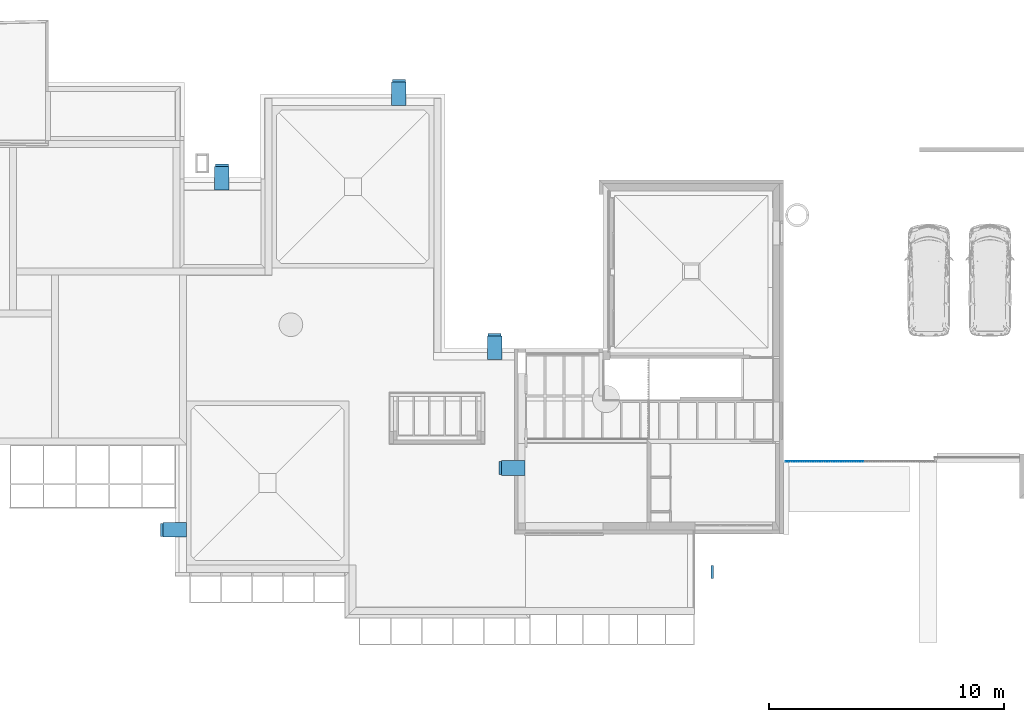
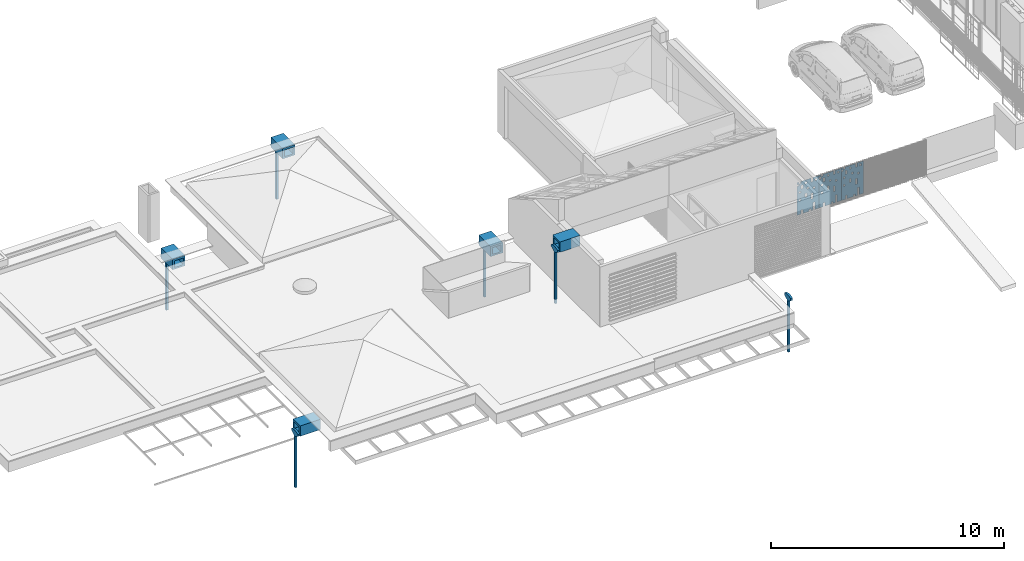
# One storey, part 5 of 51: 14 beams.
"""IFC2X3 building model written with IfcOpenShell, lengths in metres."""

from ifc_helpers import new_model, entity, si_unit, converted_unit, derived_unit, direction, frame, frame_2d, origin, place, context, subcontext, project, spatial, polyline, circle_curve, parameter, trimmed, segment, composite_curve, outline, extrude, material, type_object, element, save


model = new_model("IFC2X3")

# Units and contexts
model_context = context("Model", 3, precision=1e-05, world=origin(), true_north=direction((6.123031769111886e-17, 1.0)))
body_context = subcontext(model_context, "Body", "Model", "MODEL_VIEW")
ifc_project = project(units=[si_unit("LENGTHUNIT", "METRE"), si_unit("AREAUNIT", "SQUARE_METRE"), si_unit("VOLUMEUNIT", "CUBIC_METRE"), converted_unit("PLANEANGLEUNIT", "DEGREE", entity("IfcRatioMeasure", 0.017453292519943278), si_unit("PLANEANGLEUNIT", "RADIAN"), dimensions=[0, 0, 0, 0, 0, 0, 0]), si_unit("MASSUNIT", "GRAM", prefix="KILO"), derived_unit("MASSDENSITYUNIT", [(si_unit("MASSUNIT", "GRAM", prefix="KILO"), 1), (si_unit("LENGTHUNIT", "METRE"), -3)]), derived_unit("MOMENTOFINERTIAUNIT", [(si_unit("LENGTHUNIT", "METRE"), 4)]), si_unit("TIMEUNIT", "SECOND"), si_unit("FREQUENCYUNIT", "HERTZ"), si_unit("THERMODYNAMICTEMPERATUREUNIT", "DEGREE_CELSIUS"), derived_unit("THERMALTRANSMITTANCEUNIT", [(si_unit("MASSUNIT", "GRAM", prefix="KILO"), 1), (si_unit("THERMODYNAMICTEMPERATUREUNIT", "KELVIN"), -1), (si_unit("TIMEUNIT", "SECOND"), -3)]), derived_unit("THERMALCONDUCTANCEUNIT", [(si_unit("MASSUNIT", "GRAM", prefix="KILO"), 1), (si_unit("LENGTHUNIT", "METRE"), 1), (si_unit("THERMODYNAMICTEMPERATUREUNIT", "KELVIN"), -1), (si_unit("TIMEUNIT", "SECOND"), -3)]), derived_unit("VOLUMETRICFLOWRATEUNIT", [(si_unit("LENGTHUNIT", "METRE"), 3), (si_unit("TIMEUNIT", "SECOND"), -1)]), derived_unit("MASSFLOWRATEUNIT", [(si_unit("MASSUNIT", "GRAM", prefix="KILO"), 1), (si_unit("TIMEUNIT", "SECOND"), -1)]), derived_unit("ROTATIONALFREQUENCYUNIT", [(si_unit("TIMEUNIT", "SECOND"), -1)]), si_unit("ELECTRICCURRENTUNIT", "AMPERE"), si_unit("ELECTRICVOLTAGEUNIT", "VOLT"), si_unit("POWERUNIT", "WATT"), si_unit("FORCEUNIT", "NEWTON", prefix="KILO"), si_unit("ILLUMINANCEUNIT", "LUX"), si_unit("LUMINOUSFLUXUNIT", "LUMEN"), si_unit("LUMINOUSINTENSITYUNIT", "CANDELA"), derived_unit("USERDEFINED", [(si_unit("MASSUNIT", "GRAM", prefix="KILO"), -1), (si_unit("LENGTHUNIT", "METRE"), -2), (si_unit("TIMEUNIT", "SECOND"), 3), (si_unit("LUMINOUSFLUXUNIT", "LUMEN"), 1)]), derived_unit("USERDEFINED", [(si_unit("MASSUNIT", "GRAM", prefix="KILO"), 1), (si_unit("LENGTHUNIT", "METRE"), 3), (si_unit("TIMEUNIT", "SECOND"), -3), (si_unit("ELECTRICCURRENTUNIT", "AMPERE"), -2)]), derived_unit("USERDEFINED", [(si_unit("LENGTHUNIT", "METRE"), 2), (si_unit("TIMEUNIT", "SECOND"), -2)]), derived_unit("SOUNDPOWERUNIT", [(si_unit("MASSUNIT", "GRAM", prefix="KILO"), 1), (si_unit("LENGTHUNIT", "METRE"), 2), (si_unit("TIMEUNIT", "SECOND"), -3)]), derived_unit("SOUNDPRESSUREUNIT", [(si_unit("MASSUNIT", "GRAM", prefix="KILO"), 1), (si_unit("LENGTHUNIT", "METRE"), -1), (si_unit("TIMEUNIT", "SECOND"), -2)]), derived_unit("LINEARVELOCITYUNIT", [(si_unit("LENGTHUNIT", "METRE"), 1), (si_unit("TIMEUNIT", "SECOND"), -1)]), si_unit("PRESSUREUNIT", "PASCAL"), derived_unit("USERDEFINED", [(si_unit("LENGTHUNIT", "METRE"), -2), (si_unit("MASSUNIT", "GRAM", prefix="KILO"), 1), (si_unit("TIMEUNIT", "SECOND"), -2)]), derived_unit("LINEARFORCEUNIT", [(si_unit("MASSUNIT", "GRAM", prefix="KILO"), 1), (si_unit("LENGTHUNIT", "METRE"), 1), (si_unit("TIMEUNIT", "SECOND"), -2), (si_unit("LENGTHUNIT", "METRE"), -1)]), derived_unit("PLANARFORCEUNIT", [(si_unit("MASSUNIT", "GRAM", prefix="KILO"), 1), (si_unit("LENGTHUNIT", "METRE"), 1), (si_unit("TIMEUNIT", "SECOND"), -2), (si_unit("LENGTHUNIT", "METRE"), -2)]), derived_unit("SPECIFICHEATCAPACITYUNIT", [(si_unit("LENGTHUNIT", "METRE"), 2), (si_unit("TIMEUNIT", "SECOND"), -2), (si_unit("THERMODYNAMICTEMPERATUREUNIT", "KELVIN"), -1)]), derived_unit("VAPORPERMEABILITYUNIT", [(si_unit("TIMEUNIT", "SECOND"), 1), (si_unit("LENGTHUNIT", "METRE"), -1)]), derived_unit("DYNAMICVISCOSITYUNIT", [(si_unit("MASSUNIT", "GRAM", prefix="KILO"), 1), (si_unit("LENGTHUNIT", "METRE"), -1), (si_unit("TIMEUNIT", "SECOND"), -1)]), derived_unit("THERMALEXPANSIONCOEFFICIENTUNIT", [(si_unit("THERMODYNAMICTEMPERATUREUNIT", "KELVIN"), -1)])], contexts=[model_context])

# Site, building, storey
site_placement = place(None, origin())
site = spatial("IfcSite", under=ifc_project, at=site_placement, Name="Default", CompositionType="ELEMENT")
building_placement = place(site_placement, origin())
building = spatial("IfcBuilding", under=site, at=building_placement, CompositionType="ELEMENT")
storey_placement = place(building_placement, frame((0.0, 0.0, 3.06)))
storey = spatial("IfcBuildingStorey", under=building, at=storey_placement, Name="ÉTAGE", CompositionType="ELEMENT", Elevation=3.06)

# Beams
ifc_material_1 = material(Name="Peinture - Jade pâle")
beam_type_1 = type_object("IfcBeamType", Name="Poutre-010 250417:Poutre-010 250417", PredefinedType="NOTDEFINED")
beam_1_placement = place(storey_placement, origin())
element("IfcBeam", 1, at=beam_1_placement, inside=storey, type_object=beam_type_1, material=ifc_material_1, Name="Poutre-004", ObjectType="Poutre-010 250417:Poutre-010 250417", context=body_context, shape_type="SweptSolid", body=[
    extrude(outline(composite_curve([segment(polyline([(0.7181249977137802, -0.27750000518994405), (0.813958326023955, -0.2775000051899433)]), True, "CONTINUOUS"), segment(trimmed(circle_curve(frame_2d((0.3087797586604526, -0.0024999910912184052), x_axis=(0.8782986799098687, 0.4781123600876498)), 0.575178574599), [parameter(302.87561741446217)], [parameter(359.99999999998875)], True, "PARAMETER"), True, "CONTINUOUS"), segment(polyline([(0.8139583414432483, 0.2724999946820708), (0.7181250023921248, 0.2724999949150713)]), True, "CONTINUOUS"), segment(polyline([(0.7181250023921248, 0.2724999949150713), (0.5839583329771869, 0.05249999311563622)]), True, "CONTINUOUS"), segment(polyline([(0.5839583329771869, 0.05249999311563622), (-2.1160416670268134, 0.052500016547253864)]), True, "CONTINUOUS"), segment(polyline([(-2.1160416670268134, 0.052500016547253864), (-2.11604166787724, -0.047499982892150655)]), True, "CONTINUOUS"), segment(polyline([(-2.11604166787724, -0.047499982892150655), (0.583958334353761, -0.047500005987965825)]), True, "CONTINUOUS"), segment(polyline([(0.583958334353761, -0.047500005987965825), (0.7181249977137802, -0.27750000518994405)]), True, "CONTINUOUS")], self_intersect=False)), frame((116.07325227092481, 16.0072094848, -0.9739583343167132), z_axis=(0.0, 1.0, 0.0), x_axis=(8.504262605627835e-09, 0.0, 1.0)), (0.0, 0.0, 1.0), 0.10000000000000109),
])
beam_2_placement = place(storey_placement, origin())
element("IfcBeam", 2, at=beam_2_placement, inside=storey, type_object=beam_type_1, material=ifc_material_1, Name="Poutre-012", ObjectType="Poutre-010 250417:Poutre-010 250417", context=body_context, shape_type="SweptSolid", body=[
    extrude(outline(composite_curve([segment(polyline([(0.71812499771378, -0.27750000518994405), (0.8139583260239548, -0.2775000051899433)]), True, "CONTINUOUS"), segment(trimmed(circle_curve(frame_2d((0.3087797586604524, -0.0024999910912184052), x_axis=(0.8782986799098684, 0.4781123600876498)), 0.575178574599), [parameter(302.87561741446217)], [parameter(359.99999999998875)], True, "PARAMETER"), True, "CONTINUOUS"), segment(polyline([(0.8139583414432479, 0.2724999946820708), (0.7181250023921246, 0.2724999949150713)]), True, "CONTINUOUS"), segment(polyline([(0.7181250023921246, 0.2724999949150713), (0.5839583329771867, 0.05249999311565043)]), True, "CONTINUOUS"), segment(polyline([(0.5839583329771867, 0.05249999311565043), (-2.116041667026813, 0.052500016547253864)]), True, "CONTINUOUS"), segment(polyline([(-2.116041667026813, 0.052500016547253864), (-2.1160416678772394, -0.047499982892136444)]), True, "CONTINUOUS"), segment(polyline([(-2.1160416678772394, -0.047499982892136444), (0.5839583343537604, -0.047500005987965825)]), True, "CONTINUOUS"), segment(polyline([(0.5839583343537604, -0.047500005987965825), (0.71812499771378, -0.27750000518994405)]), True, "CONTINUOUS")], self_intersect=False)), frame((104.47325226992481, 23.2272094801, -1.973958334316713), z_axis=(0.0, 1.0, 0.0), x_axis=(8.504262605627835e-09, 0.0, 1.0)), (0.0, 0.0, 1.0), 0.09999999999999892),
])
beam_3_placement = place(storey_placement, origin())
element("IfcBeam", 3, at=beam_3_placement, inside=storey, type_object=beam_type_1, material=ifc_material_1, Name="Poutre-006", ObjectType="Poutre-010 250417:Poutre-010 250417", context=body_context, shape_type="SweptSolid", body=[
    extrude(outline(composite_curve([segment(polyline([(0.7181249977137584, -0.2775000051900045), (0.813958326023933, -0.27750000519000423)]), True, "CONTINUOUS"), segment(trimmed(circle_curve(frame_2d((0.3087797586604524, -0.002499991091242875), x_axis=(0.8782986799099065, 0.4781123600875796)), 0.575178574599), [parameter(302.87561741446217)], [parameter(359.99999999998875)], True, "PARAMETER"), True, "CONTINUOUS"), segment(polyline([(0.8139583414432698, 0.27249999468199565), (0.7181250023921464, 0.27249999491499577)]), True, "CONTINUOUS"), segment(polyline([(0.7181250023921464, 0.27249999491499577), (0.5839583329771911, 0.05249999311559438)]), True, "CONTINUOUS"), segment(polyline([(0.5839583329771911, 0.05249999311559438), (-2.1160416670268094, 0.05250001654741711)]), True, "CONTINUOUS"), segment(polyline([(-2.1160416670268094, 0.05250001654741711), (-2.116041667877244, -0.04749998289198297)]), True, "CONTINUOUS"), segment(polyline([(-2.116041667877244, -0.04749998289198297), (0.5839583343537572, -0.047500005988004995)]), True, "CONTINUOUS"), segment(polyline([(0.5839583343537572, -0.047500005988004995), (0.7181249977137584, -0.2775000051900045)]), True, "CONTINUOUS")], self_intersect=False)), frame((125.28575228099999, 5.964709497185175, -0.9739583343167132), z_axis=(1.0, 0.0, 0.0), x_axis=(0.0, -8.504341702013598e-09, 1.0)), (0.0, 0.0, 1.0), 0.0999999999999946),
])
beam_4_placement = place(storey_placement, origin())
element("IfcBeam", 4, at=beam_4_placement, inside=storey, type_object=beam_type_1, material=ifc_material_1, Name="Poutre-008", ObjectType="Poutre-010 250417:Poutre-010 250417", context=body_context, shape_type="SweptSolid", body=[
    extrude(outline(composite_curve([segment(polyline([(0.7181249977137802, -0.27750000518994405), (0.813958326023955, -0.2775000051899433)]), True, "CONTINUOUS"), segment(trimmed(circle_curve(frame_2d((0.3087797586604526, -0.0024999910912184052), x_axis=(0.8782986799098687, 0.4781123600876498)), 0.575178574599), [parameter(302.87561741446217)], [parameter(359.99999999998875)], True, "PARAMETER"), True, "CONTINUOUS"), segment(polyline([(0.8139583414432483, 0.2724999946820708), (0.7181250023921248, 0.2724999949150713)]), True, "CONTINUOUS"), segment(polyline([(0.7181250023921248, 0.2724999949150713), (0.5839583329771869, 0.05249999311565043)]), True, "CONTINUOUS"), segment(polyline([(0.5839583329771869, 0.05249999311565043), (-2.1160416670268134, 0.052500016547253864)]), True, "CONTINUOUS"), segment(polyline([(-2.1160416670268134, 0.052500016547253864), (-2.11604166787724, -0.047499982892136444)]), True, "CONTINUOUS"), segment(polyline([(-2.11604166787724, -0.047499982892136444), (0.583958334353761, -0.047500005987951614)]), True, "CONTINUOUS"), segment(polyline([(0.583958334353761, -0.047500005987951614), (0.7181249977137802, -0.27750000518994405)]), True, "CONTINUOUS")], self_intersect=False)), frame((112.00325226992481, 26.817209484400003, -0.9739583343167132), z_axis=(0.0, 1.0, 0.0), x_axis=(8.504262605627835e-09, 0.0, 1.0)), (0.0, 0.0, 1.0), 0.09999999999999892),
])
beam_5_placement = place(storey_placement, origin())
element("IfcBeam", 5, at=beam_5_placement, inside=storey, type_object=beam_type_1, material=ifc_material_1, Name="Poutre-010", ObjectType="Poutre-010 250417:Poutre-010 250417", context=body_context, shape_type="SweptSolid", body=[
    extrude(outline(composite_curve([segment(polyline([(-0.6015410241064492, -0.4804770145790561), (-0.6498286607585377, -0.5632558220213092)]), True, "CONTINUOUS"), segment(trimmed(circle_curve(frame_2d((-0.1577446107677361, -0.2654577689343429), x_axis=(-0.02956587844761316, -0.9995628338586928)), 0.575178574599), [parameter(302.87561741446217)], [parameter(359.99999999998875)], True, "PARAMETER"), True, "CONTINUOUS"), segment(polyline([(-0.17475027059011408, -0.84038489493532), (-0.1264626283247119, -0.7576060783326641)]), True, "CONTINUOUS"), segment(polyline([(-0.1264626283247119, -0.7576060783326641), (-0.24889129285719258, -0.5308641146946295)]), True, "CONTINUOUS"), segment(polyline([(-0.24889129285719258, -0.5308641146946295), (1.1115604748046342, 1.8013389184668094)]), True, "CONTINUOUS"), segment(polyline([(1.1115604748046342, 1.8013389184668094), (1.0251825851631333, 1.8517260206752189)]), True, "CONTINUOUS"), segment(polyline([(1.0251825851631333, 1.8517260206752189), (-0.3352691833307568, -0.48047701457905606)]), True, "CONTINUOUS"), segment(polyline([(-0.3352691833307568, -0.48047701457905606), (-0.6015410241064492, -0.4804770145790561)]), True, "CONTINUOUS")], self_intersect=False)), frame((101.86075227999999, 7.759709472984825, -0.9739583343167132), z_axis=(-1.0, 0.0, 0.0), x_axis=(0.0, 0.863778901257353, -0.5038710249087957)), (0.0, 0.0, -1.0), 0.09999999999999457),
])
beam_type_2 = type_object("IfcBeamType", Name="Poutre-002 805953:Poutre-002 805953", PredefinedType="NOTDEFINED")
beam_6_placement = place(storey_placement, origin())
element("IfcBeam", 6, at=beam_6_placement, inside=storey, type_object=beam_type_2, material=ifc_material_1, Name="Poutre-002", ObjectType="Poutre-002 805953:Poutre-002 805953", context=body_context, shape_type="SweptSolid", body=[
    extrude(outline(composite_curve([segment(polyline([(-0.8139583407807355, -0.27249999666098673), (-0.7181250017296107, -0.27249999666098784)]), True, "CONTINUOUS"), segment(polyline([(-0.7181250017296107, -0.27249999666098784), (-0.5839583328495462, -0.052499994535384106)]), True, "CONTINUOUS"), segment(polyline([(-0.5839583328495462, -0.052499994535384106), (2.1160416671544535, -0.052500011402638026)]), True, "CONTINUOUS"), segment(polyline([(2.1160416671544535, -0.052500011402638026), (2.1160416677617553, 0.047499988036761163)]), True, "CONTINUOUS"), segment(polyline([(2.1160416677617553, 0.047499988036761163), (-0.5839583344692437, 0.04750000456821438)]), True, "CONTINUOUS"), segment(polyline([(-0.5839583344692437, 0.04750000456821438), (-0.7181249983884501, 0.27750000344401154)]), True, "CONTINUOUS"), segment(polyline([(-0.7181249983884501, 0.27750000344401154), (-0.8139583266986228, 0.27750000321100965)]), True, "CONTINUOUS"), segment(trimmed(circle_curve(frame_2d((-0.30877975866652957, 0.0024999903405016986), x_axis=(-0.8782986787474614, -0.47811236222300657)), 0.575178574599), [parameter(302.87561741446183)], [parameter(359.99999999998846)], True, "PARAMETER"), True, "CONTINUOUS")], self_intersect=False)), frame((116.27075228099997, 10.389709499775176, 2.036041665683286), z_axis=(1.0, 0.0, 0.0), x_axis=(0.0, 6.07301981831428e-09, -1.0)), (0.0, 0.0, 1.0), 0.0999999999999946),
])
ifc_material_2 = material(Name="Enduit - Beige nature")
beam_type_3 = type_object("IfcBeamType", Name="Poutre-002 805777:Poutre-002 805777", PredefinedType="NOTDEFINED")
beam_7_placement = place(storey_placement, origin())
element("IfcBeam", 7, at=beam_7_placement, inside=storey, type_object=beam_type_3, material=ifc_material_2, Name="Poutre-002", ObjectType="Poutre-002 805777:Poutre-002 805777", context=body_context, shape_type="SweptSolid", body=[
    extrude(outline(polyline([(-0.27000000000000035, -0.30999999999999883), (0.26999999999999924, -0.30999999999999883), (0.26999999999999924, 0.310000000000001), (-0.27000000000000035, 0.310000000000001), (-0.27000000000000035, -0.30999999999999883)]), holes=[polyline([(0.16999999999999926, 0.21000000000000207), (0.18999999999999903, 0.0), (0.16999999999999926, -0.2099999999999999), (-0.17000000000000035, -0.2199999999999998), (-0.17000000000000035, 0.22000000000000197), (0.16999999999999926, 0.21000000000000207)])]), frame((116.37075228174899, 10.392209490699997, 3.0199999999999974), z_axis=(1.0, 0.0, 0.0), x_axis=(0.0, 0.0, -1.0)), (0.0, 0.0, 1.0), 0.9999999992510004),
])
beam_type_4 = type_object("IfcBeamType", Name="Poutre-004 250637:Poutre-004 250637", PredefinedType="NOTDEFINED")
beam_8_placement = place(storey_placement, origin())
element("IfcBeam", 8, at=beam_8_placement, inside=storey, type_object=beam_type_4, material=ifc_material_2, Name="Poutre-011", ObjectType="Poutre-004 250637:Poutre-004 250637", context=body_context, shape_type="SweptSolid", body=[
    extrude(outline(polyline([(-0.2700000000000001, -0.30999999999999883), (0.2700000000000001, -0.30999999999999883), (0.2700000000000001, 0.30999999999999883), (-0.2700000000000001, 0.30999999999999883), (-0.2700000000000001, -0.30999999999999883)]), holes=[polyline([(0.17000000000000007, 0.22000000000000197), (0.17000000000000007, -0.22000000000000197), (-0.17000000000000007, -0.21000000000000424), (-0.1900000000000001, 0.0), (-0.17000000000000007, 0.21000000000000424), (0.17000000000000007, 0.22000000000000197)])]), frame((104.470752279, 22.227209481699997, -0.9899999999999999), z_axis=(0.0, 1.0, 0.0), x_axis=(0.0, 0.0, 1.0)), (0.0, 0.0, 1.0), 0.9999999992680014),
])
beam_9_placement = place(storey_placement, origin())
element("IfcBeam", 9, at=beam_9_placement, inside=storey, type_object=beam_type_4, material=ifc_material_2, Name="Poutre-009", ObjectType="Poutre-004 250637:Poutre-004 250637", context=body_context, shape_type="SweptSolid", body=[
    extrude(outline(polyline([(-0.310000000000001, -0.27000000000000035), (0.30999999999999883, -0.27000000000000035), (0.30999999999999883, 0.2699999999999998), (-0.310000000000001, 0.2699999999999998), (-0.310000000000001, -0.27000000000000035)]), holes=[polyline([(0.21999999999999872, 0.1699999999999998), (0.20999999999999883, -0.17000000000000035), (0.0, -0.1900000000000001), (-0.210000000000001, -0.17000000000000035), (-0.2200000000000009, 0.1699999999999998), (0.21999999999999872, 0.1699999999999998)])]), frame((101.960752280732, 7.757209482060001, 0.010000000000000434), z_axis=(1.0, 0.0, 0.0), x_axis=(0.0, 1.0, 0.0)), (0.0, 0.0, 1.0), 0.9999999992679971),
])
beam_10_placement = place(storey_placement, origin())
element("IfcBeam", 10, at=beam_10_placement, inside=storey, type_object=beam_type_4, material=ifc_material_2, Name="Poutre-007", ObjectType="Poutre-004 250637:Poutre-004 250637", context=body_context, shape_type="SweptSolid", body=[
    extrude(outline(polyline([(-0.27000000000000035, -0.30999999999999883), (0.2699999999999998, -0.30999999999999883), (0.2699999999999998, 0.30999999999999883), (-0.27000000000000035, 0.30999999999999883), (-0.27000000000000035, -0.30999999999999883)]), holes=[polyline([(0.1699999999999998, 0.22000000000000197), (0.1699999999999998, -0.22000000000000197), (-0.17000000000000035, -0.21000000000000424), (-0.1900000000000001, 0.0), (-0.17000000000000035, 0.21000000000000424), (0.1699999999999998, 0.22000000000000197)])]), frame((112.000752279, 25.8172094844, 0.010000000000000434), z_axis=(0.0, 1.0, 0.0), x_axis=(0.0, 0.0, 1.0)), (0.0, 0.0, 1.0), 0.9999999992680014),
])
beam_11_placement = place(storey_placement, origin())
element("IfcBeam", 11, at=beam_11_placement, inside=storey, type_object=beam_type_4, material=ifc_material_2, Name="Poutre-004", ObjectType="Poutre-004 250637:Poutre-004 250637", context=body_context, shape_type="SweptSolid", body=[
    extrude(outline(polyline([(-0.27000000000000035, -0.30999999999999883), (0.2699999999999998, -0.30999999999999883), (0.2699999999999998, 0.30999999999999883), (-0.27000000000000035, 0.30999999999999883), (-0.27000000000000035, -0.30999999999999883)]), holes=[polyline([(0.1699999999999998, 0.22000000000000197), (0.1699999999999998, -0.22000000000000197), (-0.17000000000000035, -0.21000000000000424), (-0.1900000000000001, 0.0), (-0.17000000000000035, 0.21000000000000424), (0.1699999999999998, 0.22000000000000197)])]), frame((116.07075228, 15.0072094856, 0.010000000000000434), z_axis=(0.0, 1.0, 0.0), x_axis=(0.0, 0.0, 1.0)), (0.0, 0.0, 1.0), 0.9999999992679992),
])
ifc_material_3 = material(Name="Peinture - Gris foncé")
beam_type_5 = type_object("IfcBeamType", Name="Poutre-017 448176:Poutre-017 448176", PredefinedType="NOTDEFINED")
beam_12_placement = place(storey_placement, origin())
element("IfcBeam", 12, at=beam_12_placement, inside=storey, type_object=beam_type_5, material=ifc_material_3, Name="Poutre-017", ObjectType="Poutre-017 448176:Poutre-017 448176", context=body_context, shape_type="SweptSolid", body=[
    extrude(outline(polyline([(-0.5333333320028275, -0.9587500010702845), (-0.42833333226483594, -0.9587500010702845), (-0.42833333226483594, -0.8637500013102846), (-0.3383333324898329, -0.8637500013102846), (-0.3383333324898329, -0.9587500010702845), (0.1716666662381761, -0.9587500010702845), (0.1716666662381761, -0.7637500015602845), (0.26166666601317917, -0.7637500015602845), (0.26166666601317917, -0.9587500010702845), (0.5666666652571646, -0.9587500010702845), (0.5666666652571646, 0.7412499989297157), (0.3616666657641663, 0.7412499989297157), (0.3616666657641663, 0.3462499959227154), (0.2716666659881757, 0.3462499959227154), (0.2716666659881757, 0.7412499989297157), (0.1616666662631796, 0.7412499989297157), (0.1616666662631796, 0.6462499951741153), (0.07166666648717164, 0.6462499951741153), (0.07166666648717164, 0.7412499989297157), (-0.23833333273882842, 0.7412499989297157), (-0.23833333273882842, 0.5462500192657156), (-0.32833333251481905, 0.5462500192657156), (-0.32833333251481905, 0.7412499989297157), (-0.5333333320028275, 0.7412499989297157), (-0.5333333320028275, -0.9587500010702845)]), holes=[polyline([(-0.42833333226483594, 0.036249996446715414), (-0.3383333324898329, 0.036249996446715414), (-0.3383333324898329, -0.0537500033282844), (-0.42833333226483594, -0.0537500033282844), (-0.42833333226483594, 0.036249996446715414)]), polyline([(-0.42833333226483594, -0.4537500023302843), (-0.42833333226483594, -0.36375000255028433), (-0.3383333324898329, -0.36375000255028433), (-0.3383333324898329, -0.4537500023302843), (-0.42833333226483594, -0.4537500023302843)]), polyline([(-0.0383333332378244, -0.2537500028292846), (-0.12833333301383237, -0.2537500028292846), (-0.12833333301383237, -0.06375000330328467), (-0.0383333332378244, -0.06375000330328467), (-0.0383333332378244, -0.2537500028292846)]), polyline([(0.1716666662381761, -0.15375000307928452), (0.1716666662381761, 0.13624999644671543), (0.2616666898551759, 0.13624999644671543), (0.2616666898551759, -0.15375000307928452), (0.1716666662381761, -0.15375000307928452)]), polyline([(0.2716666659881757, -0.4537500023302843), (0.2716666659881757, -0.36375000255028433), (0.3616666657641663, -0.36375000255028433), (0.3616666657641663, -0.4537500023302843), (0.2716666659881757, -0.4537500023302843)]), polyline([(-0.5283333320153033, -0.7637500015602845), (-0.43833333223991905, -0.7637500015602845), (-0.43833333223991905, -0.8537500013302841), (-0.5283333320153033, -0.8537500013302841), (-0.5283333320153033, -0.7637500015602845)]), polyline([(-0.23833333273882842, -0.7537500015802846), (-0.32833333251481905, -0.7537500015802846), (-0.32833333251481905, -0.5637500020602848), (-0.23833333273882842, -0.5637500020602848), (-0.23833333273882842, -0.7537500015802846)]), polyline([(-0.12833333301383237, -0.7637500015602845), (-0.0383333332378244, -0.7637500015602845), (-0.0383333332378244, -0.8537500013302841), (-0.12833333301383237, -0.8537500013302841), (-0.12833333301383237, -0.7637500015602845)]), polyline([(-0.02833333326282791, -0.5537500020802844), (-0.02833333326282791, -0.4637500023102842), (0.06166666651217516, -0.4637500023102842), (0.06166666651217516, -0.5537500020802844), (-0.02833333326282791, -0.5537500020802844)]), polyline([(0.46166666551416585, -0.8537500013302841), (0.3716666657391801, -0.8537500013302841), (0.3716666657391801, -0.7637500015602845), (0.46166666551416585, -0.7637500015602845), (0.46166666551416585, -0.8537500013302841)])]), frame((131.19908561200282, 10.667209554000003, 0.8412499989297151), z_axis=(0.0, 1.0, 0.0), x_axis=(1.0, 0.0, 0.0)), (0.0, 0.0, 1.0), 0.009999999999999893),
])
beam_13_placement = place(storey_placement, origin())
element("IfcBeam", 13, at=beam_13_placement, inside=storey, type_object=beam_type_5, material=ifc_material_3, Name="Poutre-017", ObjectType="Poutre-017 448176:Poutre-017 448176", context=body_context, shape_type="SweptSolid", body=[
    extrude(outline(polyline([(-0.5333333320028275, -0.9587500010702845), (-0.42833333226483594, -0.9587500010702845), (-0.42833333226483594, -0.8637500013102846), (-0.3383333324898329, -0.8637500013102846), (-0.3383333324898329, -0.9587500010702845), (0.1716666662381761, -0.9587500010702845), (0.1716666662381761, -0.7637500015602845), (0.26166666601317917, -0.7637500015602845), (0.26166666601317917, -0.9587500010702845), (0.5666666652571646, -0.9587500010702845), (0.5666666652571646, 0.7412499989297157), (0.3616666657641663, 0.7412499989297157), (0.3616666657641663, 0.3462499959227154), (0.2716666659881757, 0.3462499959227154), (0.2716666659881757, 0.7412499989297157), (0.1616666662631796, 0.7412499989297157), (0.1616666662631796, 0.6462499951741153), (0.07166666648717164, 0.6462499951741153), (0.07166666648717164, 0.7412499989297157), (-0.23833333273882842, 0.7412499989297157), (-0.23833333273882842, 0.5462500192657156), (-0.32833333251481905, 0.5462500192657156), (-0.32833333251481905, 0.7412499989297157), (-0.5333333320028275, 0.7412499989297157), (-0.5333333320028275, -0.9587500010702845)]), holes=[polyline([(-0.42833333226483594, 0.036249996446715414), (-0.3383333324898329, 0.036249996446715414), (-0.3383333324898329, -0.0537500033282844), (-0.42833333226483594, -0.0537500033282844), (-0.42833333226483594, 0.036249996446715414)]), polyline([(-0.42833333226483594, -0.4537500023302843), (-0.42833333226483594, -0.36375000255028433), (-0.3383333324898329, -0.36375000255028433), (-0.3383333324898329, -0.4537500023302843), (-0.42833333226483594, -0.4537500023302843)]), polyline([(-0.0383333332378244, -0.2537500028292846), (-0.12833333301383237, -0.2537500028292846), (-0.12833333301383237, -0.06375000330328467), (-0.0383333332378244, -0.06375000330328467), (-0.0383333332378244, -0.2537500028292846)]), polyline([(0.1716666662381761, -0.15375000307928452), (0.1716666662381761, 0.13624999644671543), (0.2616666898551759, 0.13624999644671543), (0.2616666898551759, -0.15375000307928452), (0.1716666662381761, -0.15375000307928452)]), polyline([(0.2716666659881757, -0.4537500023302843), (0.2716666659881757, -0.36375000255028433), (0.3616666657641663, -0.36375000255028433), (0.3616666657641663, -0.4537500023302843), (0.2716666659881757, -0.4537500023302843)]), polyline([(-0.5283333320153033, -0.7637500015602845), (-0.43833333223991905, -0.7637500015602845), (-0.43833333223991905, -0.8537500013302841), (-0.5283333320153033, -0.8537500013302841), (-0.5283333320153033, -0.7637500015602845)]), polyline([(-0.23833333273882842, -0.7537500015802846), (-0.32833333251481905, -0.7537500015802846), (-0.32833333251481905, -0.5637500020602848), (-0.23833333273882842, -0.5637500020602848), (-0.23833333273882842, -0.7537500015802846)]), polyline([(-0.12833333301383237, -0.7637500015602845), (-0.0383333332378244, -0.7637500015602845), (-0.0383333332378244, -0.8537500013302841), (-0.12833333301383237, -0.8537500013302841), (-0.12833333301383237, -0.7637500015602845)]), polyline([(-0.02833333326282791, -0.5537500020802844), (-0.02833333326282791, -0.4637500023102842), (0.06166666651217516, -0.4637500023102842), (0.06166666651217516, -0.5537500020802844), (-0.02833333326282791, -0.5537500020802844)]), polyline([(0.46166666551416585, -0.8537500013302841), (0.3716666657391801, -0.8537500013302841), (0.3716666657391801, -0.7637500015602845), (0.46166666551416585, -0.7637500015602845), (0.46166666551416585, -0.8537500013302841)])]), frame((130.09908561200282, 10.667209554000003, 0.8412499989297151), z_axis=(0.0, 1.0, 0.0), x_axis=(1.0, 0.0, 0.0)), (0.0, 0.0, 1.0), 0.009999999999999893),
])
beam_14_placement = place(storey_placement, origin())
element("IfcBeam", 14, at=beam_14_placement, inside=storey, type_object=beam_type_5, material=ifc_material_3, Name="Poutre-017", ObjectType="Poutre-017 448176:Poutre-017 448176", context=body_context, shape_type="SweptSolid", body=[
    extrude(outline(polyline([(-0.5333333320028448, -0.9587500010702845), (-0.42833333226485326, -0.9587500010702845), (-0.42833333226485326, -0.8637500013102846), (-0.3383333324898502, -0.8637500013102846), (-0.3383333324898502, -0.9587500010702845), (0.17166666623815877, -0.9587500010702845), (0.17166666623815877, -0.7637500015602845), (0.26166666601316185, -0.7637500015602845), (0.26166666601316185, -0.9587500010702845), (0.5666666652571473, -0.9587500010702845), (0.5666666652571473, 0.7412499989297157), (0.36166666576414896, 0.7412499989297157), (0.36166666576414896, 0.3462499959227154), (0.2716666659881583, 0.3462499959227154), (0.2716666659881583, 0.7412499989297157), (0.16166666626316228, 0.7412499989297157), (0.16166666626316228, 0.6462499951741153), (0.07166666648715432, 0.6462499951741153), (0.07166666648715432, 0.7412499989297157), (-0.23833333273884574, 0.7412499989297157), (-0.23833333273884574, 0.5462500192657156), (-0.3283333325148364, 0.5462500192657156), (-0.3283333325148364, 0.7412499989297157), (-0.5333333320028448, 0.7412499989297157), (-0.5333333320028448, -0.9587500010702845)]), holes=[polyline([(-0.42833333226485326, 0.036249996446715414), (-0.3383333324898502, 0.036249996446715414), (-0.3383333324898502, -0.0537500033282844), (-0.42833333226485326, -0.0537500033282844), (-0.42833333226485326, 0.036249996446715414)]), polyline([(-0.42833333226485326, -0.4537500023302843), (-0.42833333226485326, -0.36375000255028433), (-0.3383333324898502, -0.36375000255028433), (-0.3383333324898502, -0.4537500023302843), (-0.42833333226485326, -0.4537500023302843)]), polyline([(-0.03833333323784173, -0.2537500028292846), (-0.1283333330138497, -0.2537500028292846), (-0.1283333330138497, -0.06375000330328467), (-0.03833333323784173, -0.06375000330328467), (-0.03833333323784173, -0.2537500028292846)]), polyline([(0.17166666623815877, -0.15375000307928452), (0.17166666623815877, 0.13624999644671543), (0.26166668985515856, 0.13624999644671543), (0.26166668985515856, -0.15375000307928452), (0.17166666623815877, -0.15375000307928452)]), polyline([(0.2716666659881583, -0.4537500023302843), (0.2716666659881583, -0.36375000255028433), (0.36166666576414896, -0.36375000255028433), (0.36166666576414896, -0.4537500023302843), (0.2716666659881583, -0.4537500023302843)]), polyline([(-0.5283333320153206, -0.7637500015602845), (-0.43833333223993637, -0.7637500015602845), (-0.43833333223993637, -0.8537500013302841), (-0.5283333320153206, -0.8537500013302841), (-0.5283333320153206, -0.7637500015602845)]), polyline([(-0.23833333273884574, -0.7537500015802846), (-0.3283333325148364, -0.7537500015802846), (-0.3283333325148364, -0.5637500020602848), (-0.23833333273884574, -0.5637500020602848), (-0.23833333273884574, -0.7537500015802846)]), polyline([(-0.1283333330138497, -0.7637500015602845), (-0.03833333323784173, -0.7637500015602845), (-0.03833333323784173, -0.8537500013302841), (-0.1283333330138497, -0.8537500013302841), (-0.1283333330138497, -0.7637500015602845)]), polyline([(-0.028333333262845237, -0.5537500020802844), (-0.028333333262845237, -0.4637500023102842), (0.06166666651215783, -0.4637500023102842), (0.06166666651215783, -0.5537500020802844), (-0.028333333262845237, -0.5537500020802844)]), polyline([(0.46166666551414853, -0.8537500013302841), (0.3716666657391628, -0.8537500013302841), (0.3716666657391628, -0.7637500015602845), (0.46166666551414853, -0.7637500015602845), (0.46166666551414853, -0.8537500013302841)])]), frame((128.99908561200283, 10.667209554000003, 0.8412499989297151), z_axis=(0.0, 1.0, 0.0), x_axis=(1.0, 0.0, 0.0)), (0.0, 0.0, 1.0), 0.009999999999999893),
])

save(model, "model.ifc")
